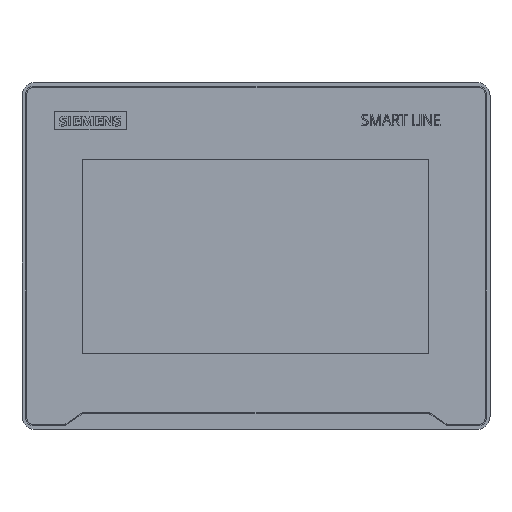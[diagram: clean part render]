
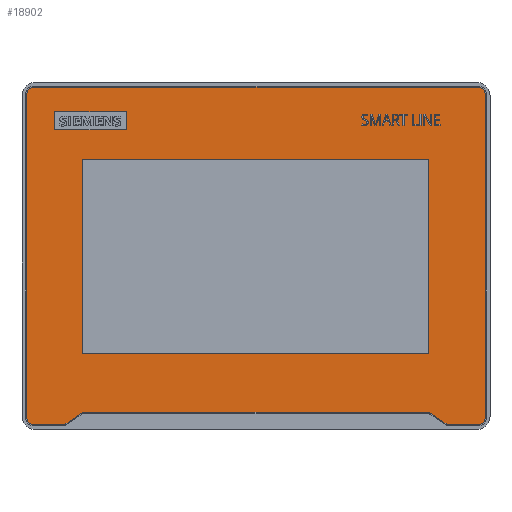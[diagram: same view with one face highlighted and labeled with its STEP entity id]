
A CAD part, top view. The second image highlights one B-rep face of the part: STEP entity #18902.
In plain terms, the highlighted planar face has unit normal (0, 0, 1).
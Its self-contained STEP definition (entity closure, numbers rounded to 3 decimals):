
#9616=CIRCLE('',#42987,3.);
#9617=CIRCLE('',#42990,2.5);
#9618=CIRCLE('',#42993,3.5);
#9619=CIRCLE('',#42996,3.5);
#9620=CIRCLE('',#42999,2.5);
#9621=CIRCLE('',#43002,3.);
#9622=CIRCLE('',#43005,3.);
#9623=CIRCLE('',#43008,3.);
#12017=LINE('',#54424,#15444);
#12021=LINE('',#54434,#15448);
#12024=LINE('',#54442,#15451);
#12027=LINE('',#54450,#15454);
#12030=LINE('',#54458,#15457);
#12033=LINE('',#54466,#15460);
#12036=LINE('',#54474,#15463);
#12039=LINE('',#54482,#15466);
#12040=LINE('',#54510,#15467);
#12041=LINE('',#54513,#15468);
#12042=LINE('',#54515,#15469);
#12043=LINE('',#54517,#15470);
#15444=VECTOR('',#45705,1.);
#15448=VECTOR('',#45715,1.);
#15451=VECTOR('',#45724,1.);
#15454=VECTOR('',#45733,1.);
#15457=VECTOR('',#45742,1.);
#15460=VECTOR('',#45751,1.);
#15463=VECTOR('',#45760,1.);
#15466=VECTOR('',#45769,1.);
#15467=VECTOR('',#45776,1.);
#15468=VECTOR('',#45777,1.);
#15469=VECTOR('',#45778,1.);
#15470=VECTOR('',#45779,1.);
#18902=ADVANCED_FACE('',(#22091,#22092,#22093),#20703,.T.);
#20703=PLANE('',#43010);
#22091=FACE_BOUND('',#22630,.T.);
#22092=FACE_BOUND('',#22631,.T.);
#22093=FACE_BOUND('',#22632,.T.);
#22630=EDGE_LOOP('',(#25685,#25686,#25687,#25688));
#22631=EDGE_LOOP('',(#25689,#25690,#25691,#25692));
#22632=EDGE_LOOP('',(#25693,#25694,#25695,#25696,#25697,#25698,#25699,#25700,
#25701,#25702,#25703,#25704,#25705,#25706,#25707,#25708));
#25685=ORIENTED_EDGE('',*,*,#37544,.F.);
#25686=ORIENTED_EDGE('',*,*,#37545,.F.);
#25687=ORIENTED_EDGE('',*,*,#37546,.F.);
#25688=ORIENTED_EDGE('',*,*,#37547,.F.);
#25689=ORIENTED_EDGE('',*,*,#37548,.F.);
#25690=ORIENTED_EDGE('',*,*,#37549,.F.);
#25691=ORIENTED_EDGE('',*,*,#37550,.F.);
#25692=ORIENTED_EDGE('',*,*,#37551,.F.);
#25693=ORIENTED_EDGE('',*,*,#37513,.T.);
#25694=ORIENTED_EDGE('',*,*,#37516,.T.);
#25695=ORIENTED_EDGE('',*,*,#37518,.T.);
#25696=ORIENTED_EDGE('',*,*,#37520,.T.);
#25697=ORIENTED_EDGE('',*,*,#37522,.T.);
#25698=ORIENTED_EDGE('',*,*,#37524,.T.);
#25699=ORIENTED_EDGE('',*,*,#37526,.T.);
#25700=ORIENTED_EDGE('',*,*,#37528,.T.);
#25701=ORIENTED_EDGE('',*,*,#37530,.T.);
#25702=ORIENTED_EDGE('',*,*,#37532,.T.);
#25703=ORIENTED_EDGE('',*,*,#37534,.T.);
#25704=ORIENTED_EDGE('',*,*,#37536,.T.);
#25705=ORIENTED_EDGE('',*,*,#37538,.T.);
#25706=ORIENTED_EDGE('',*,*,#37540,.T.);
#25707=ORIENTED_EDGE('',*,*,#37542,.T.);
#25708=ORIENTED_EDGE('',*,*,#37543,.T.);
#34221=VERTEX_POINT('',#54423);
#34222=VERTEX_POINT('',#54425);
#34223=VERTEX_POINT('',#54429);
#34224=VERTEX_POINT('',#54433);
#34225=VERTEX_POINT('',#54437);
#34226=VERTEX_POINT('',#54441);
#34227=VERTEX_POINT('',#54445);
#34228=VERTEX_POINT('',#54449);
#34229=VERTEX_POINT('',#54453);
#34230=VERTEX_POINT('',#54457);
#34231=VERTEX_POINT('',#54461);
#34232=VERTEX_POINT('',#54465);
#34233=VERTEX_POINT('',#54469);
#34234=VERTEX_POINT('',#54473);
#34235=VERTEX_POINT('',#54477);
#34236=VERTEX_POINT('',#54481);
#34237=VERTEX_POINT('',#54494);
#34238=VERTEX_POINT('',#54495);
#34239=VERTEX_POINT('',#54504);
#34240=VERTEX_POINT('',#54507);
#34241=VERTEX_POINT('',#54511);
#34242=VERTEX_POINT('',#54512);
#34243=VERTEX_POINT('',#54514);
#34244=VERTEX_POINT('',#54516);
#37513=EDGE_CURVE('',#34222,#34221,#12017,.T.);
#37516=EDGE_CURVE('',#34221,#34223,#9616,.T.);
#37518=EDGE_CURVE('',#34223,#34224,#12021,.T.);
#37520=EDGE_CURVE('',#34224,#34225,#9617,.T.);
#37522=EDGE_CURVE('',#34225,#34226,#12024,.T.);
#37524=EDGE_CURVE('',#34226,#34227,#9618,.T.);
#37526=EDGE_CURVE('',#34227,#34228,#12027,.T.);
#37528=EDGE_CURVE('',#34228,#34229,#9619,.T.);
#37530=EDGE_CURVE('',#34229,#34230,#12030,.T.);
#37532=EDGE_CURVE('',#34230,#34231,#9620,.T.);
#37534=EDGE_CURVE('',#34231,#34232,#12033,.T.);
#37536=EDGE_CURVE('',#34232,#34233,#9621,.T.);
#37538=EDGE_CURVE('',#34233,#34234,#12036,.T.);
#37540=EDGE_CURVE('',#34234,#34235,#9622,.T.);
#37542=EDGE_CURVE('',#34235,#34236,#12039,.T.);
#37543=EDGE_CURVE('',#34236,#34222,#9623,.T.);
#37544=EDGE_CURVE('',#34237,#34238,#41600,.T.);
#37545=EDGE_CURVE('',#34239,#34237,#41601,.T.);
#37546=EDGE_CURVE('',#34240,#34239,#41602,.T.);
#37547=EDGE_CURVE('',#34238,#34240,#41603,.T.);
#37548=EDGE_CURVE('',#34241,#34242,#12040,.T.);
#37549=EDGE_CURVE('',#34243,#34241,#12041,.T.);
#37550=EDGE_CURVE('',#34244,#34243,#12042,.T.);
#37551=EDGE_CURVE('',#34242,#34244,#12043,.T.);
#41600=B_SPLINE_CURVE_WITH_KNOTS('',3,(#54486,#54487,#54488,#54489,#54490,
#54491,#54492,#54493),.UNSPECIFIED.,.F.,.F.,(4,2,2,4),(0.,0.012,
0.991,1.),.UNSPECIFIED.);
#41601=B_SPLINE_CURVE_WITH_KNOTS('',3,(#54496,#54497,#54498,#54499,#54500,
#54501,#54502,#54503),.UNSPECIFIED.,.F.,.F.,(4,2,2,4),(0.,0.006,
0.994,1.),.UNSPECIFIED.);
#41602=B_SPLINE_CURVE_WITH_KNOTS('',1,(#54505,#54506),.UNSPECIFIED.,.F.,
 .F.,(2,2),(0.,1.),.UNSPECIFIED.);
#41603=B_SPLINE_CURVE_WITH_KNOTS('',1,(#54508,#54509),.UNSPECIFIED.,.F.,
 .F.,(2,2),(0.,1.),.UNSPECIFIED.);
#42987=AXIS2_PLACEMENT_3D('',#54430,#45710,#45711);
#42990=AXIS2_PLACEMENT_3D('',#54438,#45719,#45720);
#42993=AXIS2_PLACEMENT_3D('',#54446,#45728,#45729);
#42996=AXIS2_PLACEMENT_3D('',#54454,#45737,#45738);
#42999=AXIS2_PLACEMENT_3D('',#54462,#45746,#45747);
#43002=AXIS2_PLACEMENT_3D('',#54470,#45755,#45756);
#43005=AXIS2_PLACEMENT_3D('',#54478,#45764,#45765);
#43008=AXIS2_PLACEMENT_3D('',#54484,#45772,#45773);
#43010=AXIS2_PLACEMENT_3D('',#54518,#45780,#45781);
#45705=DIRECTION('',(0.,-1.,0.));
#45710=DIRECTION('',(0.,0.,1.));
#45711=DIRECTION('',(1.,0.,0.));
#45715=DIRECTION('',(1.,0.,0.));
#45719=DIRECTION('',(0.,0.,1.));
#45720=DIRECTION('',(1.,0.,0.));
#45724=DIRECTION('',(0.824,0.566,0.));
#45728=DIRECTION('',(0.,0.,-1.));
#45729=DIRECTION('',(1.,0.,0.));
#45733=DIRECTION('',(1.,0.,0.));
#45737=DIRECTION('',(0.,0.,-1.));
#45738=DIRECTION('',(1.,0.,0.));
#45742=DIRECTION('',(0.824,-0.566,0.));
#45746=DIRECTION('',(0.,0.,1.));
#45747=DIRECTION('',(1.,0.,0.));
#45751=DIRECTION('',(1.,0.,0.));
#45755=DIRECTION('',(0.,0.,1.));
#45756=DIRECTION('',(1.,0.,0.));
#45760=DIRECTION('',(0.,1.,0.));
#45764=DIRECTION('',(0.,0.,1.));
#45765=DIRECTION('',(1.,0.,0.));
#45769=DIRECTION('',(-1.,0.,0.));
#45772=DIRECTION('',(0.,0.,1.));
#45773=DIRECTION('',(1.,0.,0.));
#45776=DIRECTION('',(0.,-1.,0.));
#45777=DIRECTION('',(-1.,0.,0.));
#45778=DIRECTION('',(0.,1.,0.));
#45779=DIRECTION('',(1.,0.,0.));
#45780=DIRECTION('',(0.,0.,1.));
#45781=DIRECTION('',(1.,0.,0.));
#54423=CARTESIAN_POINT('',(2.192,5.192,37.5));
#54424=CARTESIAN_POINT('',(2.192,150.192,37.5));
#54425=CARTESIAN_POINT('',(2.192,150.192,37.5));
#54429=CARTESIAN_POINT('',(5.192,2.192,37.5));
#54430=CARTESIAN_POINT('',(5.192,5.192,37.5));
#54433=CARTESIAN_POINT('',(18.258,2.192,37.5));
#54434=CARTESIAN_POINT('',(5.192,2.192,37.5));
#54437=CARTESIAN_POINT('',(19.674,2.632,37.5));
#54438=CARTESIAN_POINT('',(18.258,4.692,37.5));
#54441=CARTESIAN_POINT('',(26.141,7.077,37.5));
#54442=CARTESIAN_POINT('',(19.674,2.632,37.5));
#54445=CARTESIAN_POINT('',(28.124,7.692,37.5));
#54446=CARTESIAN_POINT('',(28.124,4.192,37.5));
#54449=CARTESIAN_POINT('',(181.261,7.692,37.5));
#54450=CARTESIAN_POINT('',(28.124,7.692,37.5));
#54453=CARTESIAN_POINT('',(183.243,7.077,37.5));
#54454=CARTESIAN_POINT('',(181.261,4.192,37.5));
#54457=CARTESIAN_POINT('',(189.71,2.632,37.5));
#54458=CARTESIAN_POINT('',(183.243,7.077,37.5));
#54461=CARTESIAN_POINT('',(191.126,2.192,37.5));
#54462=CARTESIAN_POINT('',(191.126,4.692,37.5));
#54465=CARTESIAN_POINT('',(204.192,2.192,37.5));
#54466=CARTESIAN_POINT('',(191.126,2.192,37.5));
#54469=CARTESIAN_POINT('',(207.192,5.192,37.5));
#54470=CARTESIAN_POINT('',(204.192,5.192,37.5));
#54473=CARTESIAN_POINT('',(207.192,150.192,37.5));
#54474=CARTESIAN_POINT('',(207.192,5.192,37.5));
#54477=CARTESIAN_POINT('',(204.192,153.192,37.5));
#54478=CARTESIAN_POINT('',(204.192,150.192,37.5));
#54481=CARTESIAN_POINT('',(5.192,153.192,37.5));
#54482=CARTESIAN_POINT('',(204.192,153.192,37.5));
#54484=CARTESIAN_POINT('',(5.192,150.192,37.5));
#54486=CARTESIAN_POINT('',(27.,121.,37.5));
#54487=CARTESIAN_POINT('',(27.,120.667,37.5));
#54488=CARTESIAN_POINT('',(27.,120.333,37.5));
#54489=CARTESIAN_POINT('',(27.,91.667,37.5));
#54490=CARTESIAN_POINT('',(27.,63.333,37.5));
#54491=CARTESIAN_POINT('',(27.,34.732,37.5));
#54492=CARTESIAN_POINT('',(27.,34.463,37.5));
#54493=CARTESIAN_POINT('',(27.,34.195,37.5));
#54494=CARTESIAN_POINT('',(27.,121.,37.5));
#54495=CARTESIAN_POINT('',(27.,34.195,37.5));
#54496=CARTESIAN_POINT('',(181.895,121.,37.5));
#54497=CARTESIAN_POINT('',(181.597,121.,37.5));
#54498=CARTESIAN_POINT('',(181.298,121.,37.5));
#54499=CARTESIAN_POINT('',(130.,121.,37.5));
#54500=CARTESIAN_POINT('',(79.,121.,37.5));
#54501=CARTESIAN_POINT('',(27.667,121.,37.5));
#54502=CARTESIAN_POINT('',(27.333,121.,37.5));
#54503=CARTESIAN_POINT('',(27.,121.,37.5));
#54504=CARTESIAN_POINT('',(181.895,121.,37.5));
#54505=CARTESIAN_POINT('',(181.895,34.195,37.5));
#54506=CARTESIAN_POINT('',(181.895,121.,37.5));
#54507=CARTESIAN_POINT('',(181.895,34.195,37.5));
#54508=CARTESIAN_POINT('',(27.,34.195,37.5));
#54509=CARTESIAN_POINT('',(181.895,34.195,37.5));
#54510=CARTESIAN_POINT('',(14.6,142.313,37.5));
#54511=CARTESIAN_POINT('',(14.6,142.313,37.5));
#54512=CARTESIAN_POINT('',(14.6,134.083,37.5));
#54513=CARTESIAN_POINT('',(46.7,142.313,37.5));
#54514=CARTESIAN_POINT('',(46.7,142.313,37.5));
#54515=CARTESIAN_POINT('',(46.7,134.083,37.5));
#54516=CARTESIAN_POINT('',(46.7,134.083,37.5));
#54517=CARTESIAN_POINT('',(14.6,134.083,37.5));
#54518=CARTESIAN_POINT('',(5.192,5.192,37.5));
